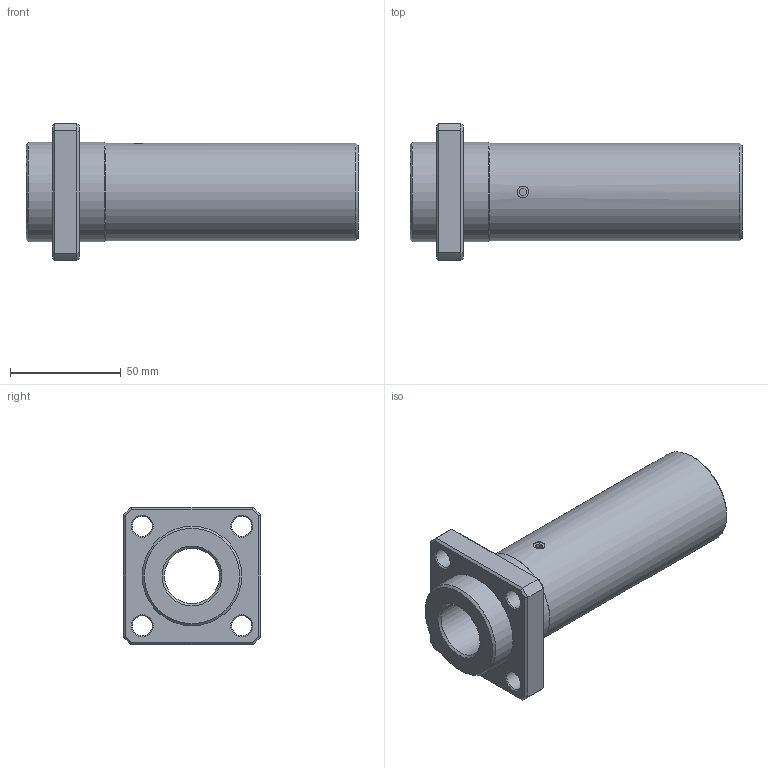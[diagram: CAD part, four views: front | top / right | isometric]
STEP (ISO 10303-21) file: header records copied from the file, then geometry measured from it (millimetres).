
FILE_DESCRIPTION(('STEP AP203'),'1');
FILE_NAME('//192.168.1.1/share/s-4 技術開発/s-4-14_個人別フォルダ/橋詰/09_CAD_DATA/3D/HP用/3Ｄモデル/LCF/LCF-BL/LCF-25BLUU.step','2021-12-09T05:12:17',(' '),(' '),'Spatial InterOp 3D',' ',' ');
FILE_SCHEMA(('CONFIG_CONTROL_DESIGN'));
Length unit declared in the file: millimetre
Products named in the file (3): 1; 2; 3
Bounding box: 150 x 62 x 62 mm (x, y, z)
Volume: 180072.3 mm3; surface area: 40937.2 mm2
Topology: 2 solids, 2 shells, 62 faces, 146 edges, 90 vertices
Faces by surface type: plane 25, cone 23, cylinder 14
Full cylindrical faces by diameter (mm): 5.25 x1, 6 x1, 9 x4, 25 x1, 44 x1, 45 x2
Entity records: 1836 total; most frequent: CARTESIAN_POINT 422, DIRECTION 271, ORIENTED_EDGE 216, AXIS2_PLACEMENT_3D 113, EDGE_CURVE 108, EDGE_LOOP 102, VERTEX_POINT 78, FACE_OUTER_BOUND 72
